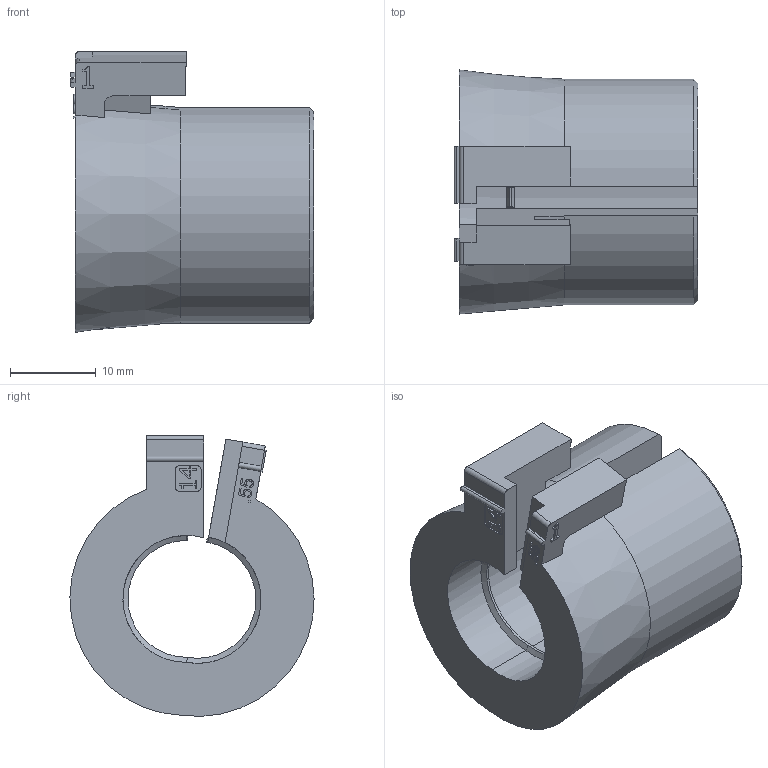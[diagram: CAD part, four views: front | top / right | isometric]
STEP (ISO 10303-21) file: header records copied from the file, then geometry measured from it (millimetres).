
FILE_DESCRIPTION(/* description */ (''),/* implementation_level */ '2;1');
FILE_NAME(/* name */ 'C:\SapWorkDir\Inventor\MP1\ConvertTempPath\87_12_121358_00_A_220530_KDT-X 14.stp',/* time_stamp */ '2022-05-31T11:43:04+02:00',/* author */ ('BAUER'),/* organization */ (''),/* preprocessor_version */ 'ST-DEVELOPER v16.13',/* originating_system */ 'Autodesk Inventor 2018',/* authorisation */ '');
FILE_SCHEMA (('AUTOMOTIVE_DESIGN { 1 0 10303 214 3 1 1 }'));
Length unit declared in the file: millimetre
Products named in the file (1): 121358
Bounding box: 28.4 x 28.42 x 32.67 mm (x, y, z)
Volume: 9933.4 mm3; surface area: 5085.5 mm2
Topology: 1 solids, 1 shells, 161 faces, 435 edges, 284 vertices
Faces by surface type: plane 109, cylinder 24, bspline 20, cone 8
Entity records: 5240 total; most frequent: CARTESIAN_POINT 1132, ORIENTED_EDGE 870, DIRECTION 730, EDGE_CURVE 435, LINE 330, VECTOR 330, VERTEX_POINT 284, AXIS2_PLACEMENT_3D 200
